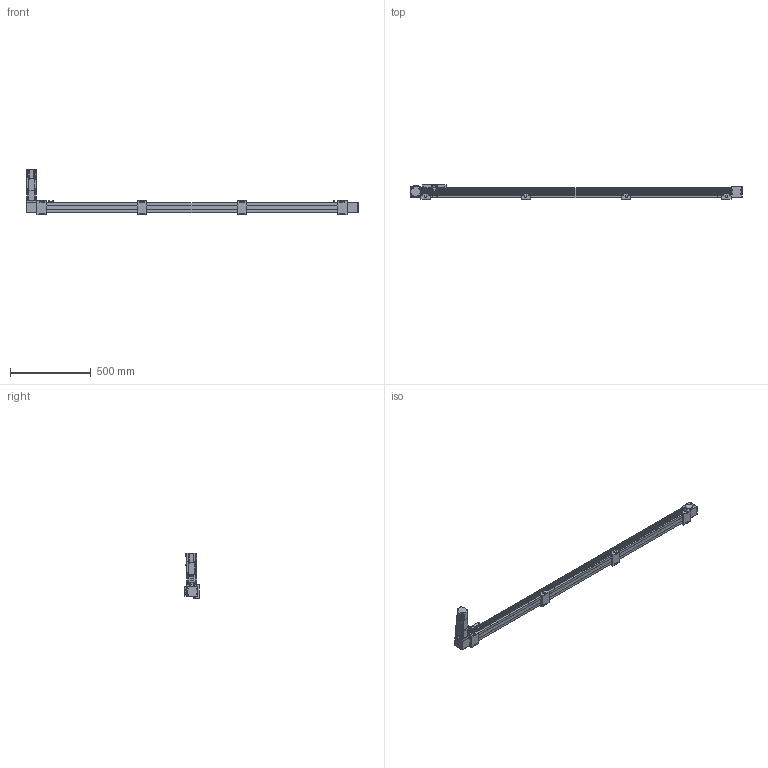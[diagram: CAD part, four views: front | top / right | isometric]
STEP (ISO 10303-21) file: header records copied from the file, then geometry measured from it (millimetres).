
FILE_DESCRIPTION(/* description */ ('STEP AP203'),/* implementation_level */ '2;1');
FILE_NAME(/* name */ 'SK60-P13-S1750-BL-T40-C1-N(0)',/* time_stamp */ '2023-04-06T03:37:26+02:00',/* author */ ('License CC BY-ND 4.0'),/* organization */ ('CADENAS'),/* preprocessor_version */ 'ST-DEVELOPER v19.3',/* originating_system */ 'PARTsolutions',/* authorisation */ ' ');
FILE_SCHEMA (('CONFIG_CONTROL_DESIGN'));
Length unit declared in the file: millimetre
Products named in the file (11): SK60-P13-S1750-BL-T40-C1-N(0); PSC140-sensor; SK60-S450_seat; SK60-S450-BL-C1_slider; SK60_body3; SK60_body6; SK60-BL_body2; T40-p1; SK60_body5; SK60_body4; SK60-S1750-BL-C1_body
Assembly tree (19 placements, depth 2):
  SK60-P13-S1750-BL-T40-C1-N(0)
    PSC140-sensor  x3
    SK60-S450_seat  x4
    SK60-S450-BL-C1_slider
    SK60_body3  x3
    SK60_body6  x2
    SK60-BL_body2  x2
    T40-p1
    SK60_body5
    SK60_body4
    SK60-S1750-BL-C1_body
Bounding box: 2050 x 90 x 278.2 mm (x, y, z)
Volume: 7570662.8 mm3; surface area: 957190.1 mm2
Topology: 19 solids, 23 shells, 922 faces, 2305 edges, 1522 vertices
Faces by surface type: plane 592, cylinder 298, cone 30, torus 2
Full cylindrical faces by diameter (mm): 2.8 x3, 3.3 x4, 4.2 x8, 4.5 x26, 4.6 x3, 4.917 x24, 5 x2, 5.478 x4, 5.5 x27, 6.5 x8, 8 x4, 8.5 x4, 9.988 x4, 10 x16, 13.556 x1, 14 x1, 14.586 x1, 19.692 x1, 38.432 x2, 43 x1, 44 x3, 47 x2, 50 x2
Entity records: 19387 total; most frequent: DIRECTION 3296, CARTESIAN_POINT 3291, ORIENTED_EDGE 3050, EDGE_CURVE 1525, AXIS2_PLACEMENT_3D 1102, LINE 1092, VECTOR 1092, VERTEX_POINT 1077
